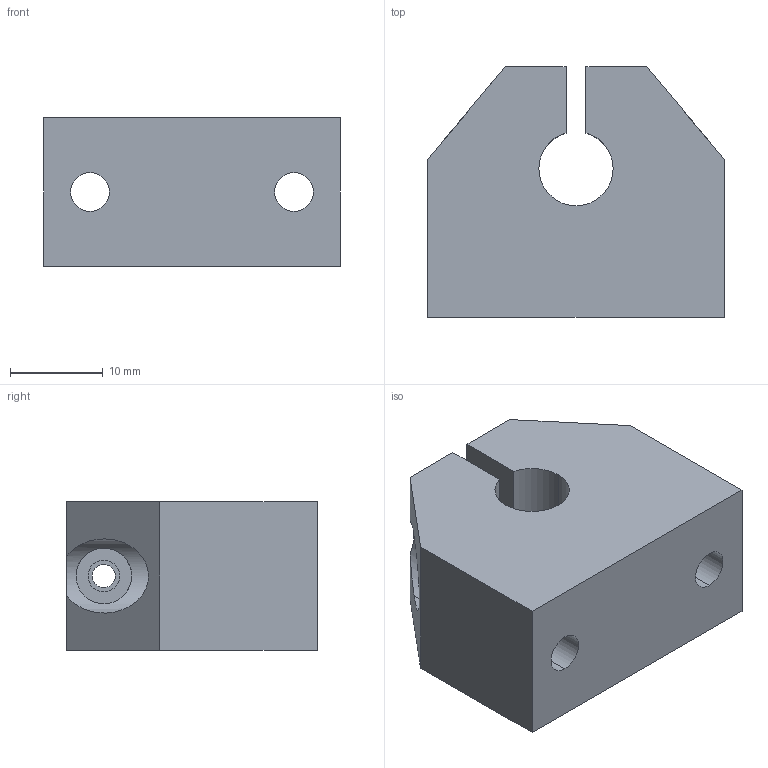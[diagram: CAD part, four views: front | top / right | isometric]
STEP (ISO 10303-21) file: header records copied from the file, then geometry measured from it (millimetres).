
FILE_DESCRIPTION (( 'STEP AP214' ), '1' );
FILE_NAME ('KWBC58-08.step', '2020-03-04T13:11:04', ( '' ), ( '' ), 'SwSTEP 2.0', 'SolidWorks 2019', '' );
FILE_SCHEMA (( 'AUTOMOTIVE_DESIGN' ));
Length unit declared in the file: millimetre
Products named in the file (1): KWBC58-08
Bounding box: 32 x 27 x 16 mm (x, y, z)
Volume: 9888 mm3; surface area: 4570.5 mm2
Topology: 1 solids, 1 shells, 31 faces, 84 edges, 56 vertices
Faces by surface type: cylinder 17, plane 14
Entity records: 1200 total; most frequent: CARTESIAN_POINT 296, ORIENTED_EDGE 168, DIRECTION 166, EDGE_CURVE 84, AXIS2_PLACEMENT_3D 60, VERTEX_POINT 56, LINE 46, VECTOR 46
